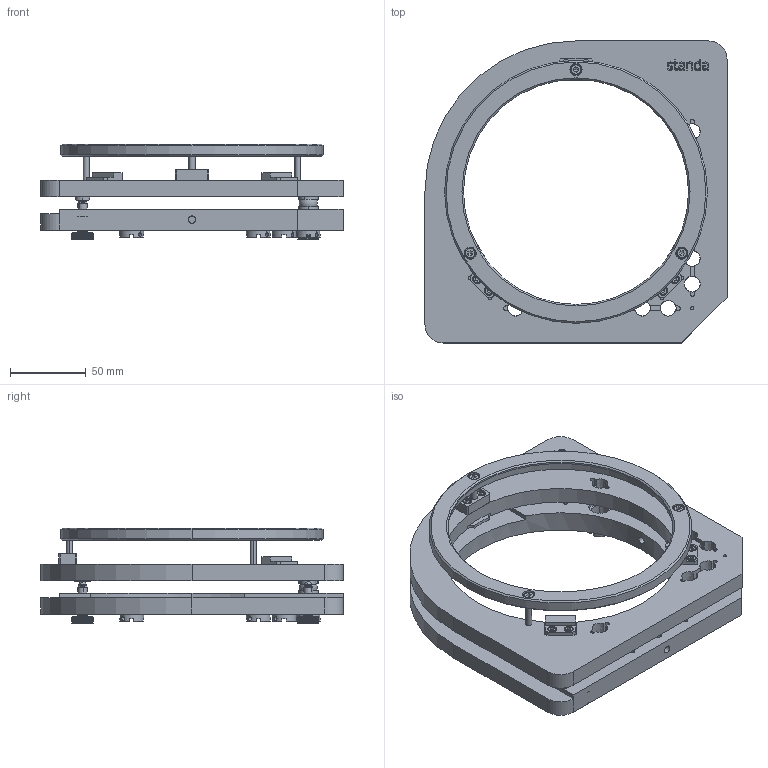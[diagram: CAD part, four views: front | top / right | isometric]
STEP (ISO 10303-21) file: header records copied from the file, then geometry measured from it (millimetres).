
FILE_DESCRIPTION((''),'2;1');
FILE_NAME('5LAM126-6-31 SB.stp','2017-10-10T08:52:20',(''),(''),'Mechanical Desktop 2011','Mechanical Desktop 2011',', , ');
FILE_SCHEMA(('CONFIG_CONTROL_DESIGN'));
Length unit declared in the file: millimetre
Products named in the file (1): Product
Bounding box: 200 x 200 x 63.41 mm (x, y, z)
Volume: 475122.4 mm3; surface area: 147775 mm2
Topology: 1 solids, 15 shells, 2683 faces, 7575 edges, 4984 vertices
Faces by surface type: plane 1056, cylinder 948, bspline 469, cone 158, torus 34, sphere 18
Entity records: 96481 total; most frequent: CARTESIAN_POINT 31389, ORIENTED_EDGE 15042, DIRECTION 12124, EDGE_CURVE 7521, VERTEX_POINT 4984, AXIS2_PLACEMENT_3D 4461, VECTOR 3202, LINE 3202
